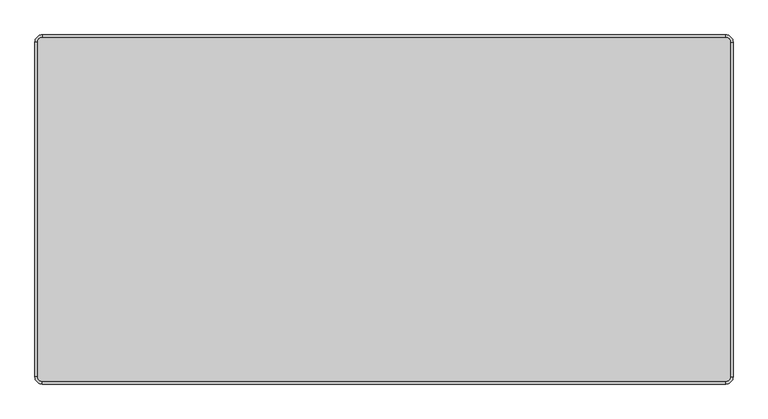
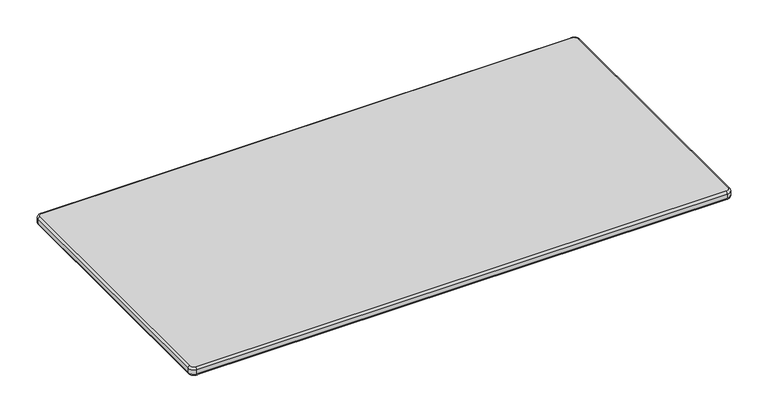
"""IFC4 building model written with IfcOpenShell, lengths in millimetres: furniture geometry, SSL-Childcraft_Outdoor-Table-Rectangle : 2161350."""

from ifc_helpers import new_model, si_unit, point, frame, origin, place, context, project, spatial, circle_curve, ellipse_curve, trimmed, source, transform, mapped, element, save
from ifc_brep_helpers import plane_surface, cylinder_surface, revolved_surface, advanced_brep


def furniture_84a5843a(model_context):
    return source(origin(), model_context, "Body", "AdvancedBrep", [
        advanced_brep(
        [(604.8375, 292.1, 508.0), (596.9, 300.0375, 508.0), (-596.9, 300.0375, 508.0), (-604.8375, 292.1, 508.0), (-604.8375, -292.1, 508.0), (-596.9, -300.0375, 508.0), (596.9, -300.0375, 508.0), (604.8375, -292.1, 508.0), (596.9, 300.0375, 488.95), (604.8375, 292.1, 488.95), (604.8375, -292.1, 488.95), (596.9, -300.0375, 488.95), (-596.9, -300.0375, 488.95), (-604.8375, -292.1, 488.95), (-604.8375, 292.1, 488.95), (-596.9, 300.0375, 488.95), (609.6, 292.1, 493.7125), (609.6, 292.1, 503.2375), (609.6, -292.1, 503.2375), (609.6, -292.1, 493.7125), (596.9, -304.8, 493.7125), (596.9, -304.8, 503.2375), (-596.9, -304.8, 503.2375), (-596.9, -304.8, 493.7125), (-609.6, -292.1, 503.2375), (-609.6, -292.1, 493.7125), (-609.6, 292.1, 503.2375), (-609.6, 292.1, 493.7125), (-596.9, 304.8, 493.7125), (-596.9, 304.8, 503.2375), (596.9, 304.8, 503.2375), (596.9, 304.8, 493.7125)],
        [
            (0, 1, circle_curve(frame((596.9, 292.1, 508.0), z_axis=(0.0, 0.0, 1.0), x_axis=(0.0, 1.0, 0.0)), 7.9375)),
            (1, 2),
            (2, 3, circle_curve(frame((-596.9, 292.1, 508.0), z_axis=(0.0, 0.0, 1.0), x_axis=(-1.0, 0.0, 0.0)), 7.9375)),
            (3, 4),
            (4, 5, circle_curve(frame((-596.9, -292.1, 508.0), z_axis=(0.0, 0.0, 1.0), x_axis=(0.0, -1.0, 0.0)), 7.9375)),
            (5, 6),
            (6, 7, circle_curve(frame((596.9, -292.1, 508.0), z_axis=(0.0, 0.0, 1.0), x_axis=(1.0, 0.0, 0.0)), 7.9375)),
            (7, 0),
            (8, 9, circle_curve(frame((596.9, 292.1, 488.95), z_axis=(0.0, 0.0, -1.0), x_axis=(0.0, 1.0, 0.0)), 7.9375)),
            (9, 10),
            (10, 11, circle_curve(frame((596.9, -292.1, 488.95), z_axis=(0.0, 0.0, -1.0), x_axis=(1.0, 0.0, 0.0)), 7.9375)),
            (11, 12),
            (12, 13, circle_curve(frame((-596.9, -292.1, 488.95), z_axis=(0.0, 0.0, -1.0), x_axis=(0.0, -1.0, 0.0)), 7.9375)),
            (13, 14),
            (14, 15, circle_curve(frame((-596.9, 292.1, 488.95), z_axis=(0.0, 0.0, -1.0), x_axis=(-1.0, 0.0, 0.0)), 7.9375)),
            (15, 8),
            (16, 17),
            (17, 18),
            (18, 19),
            (19, 16),
            (20, 21),
            (21, 22),
            (22, 23),
            (23, 20),
            (22, 24, circle_curve(frame((-596.9, -292.1, 503.2375), z_axis=(0.0, 0.0, -1.0), x_axis=(0.0, -1.0, 0.0)), 12.7)),
            (24, 25),
            (25, 23, circle_curve(frame((-596.9, -292.1, 493.7125), z_axis=(0.0, 0.0, 1.0), x_axis=(0.0, -1.0, 0.0)), 12.7)),
            (24, 26),
            (26, 27),
            (27, 25),
            (28, 29),
            (29, 30),
            (30, 31),
            (31, 28),
            (17, 30, circle_curve(frame((596.9, 292.1, 503.2375), z_axis=(0.0, 0.0, 1.0), x_axis=(0.0, 1.0, 0.0)), 12.7)),
            (30, 1, circle_curve(frame((596.9, 300.0375, 503.2375), z_axis=(1.0, 0.0, 0.0), x_axis=(0.0, 1.0, 0.0)), 4.7625)),
            (0, 17, circle_curve(frame((604.8375, 292.1, 503.2375), z_axis=(0.0, 1.0, 0.0), x_axis=(1.0, 0.0, 0.0)), 4.7625)),
            (16, 31, circle_curve(frame((596.9, 292.1, 493.7125), z_axis=(0.0, 0.0, 1.0), x_axis=(0.0, 1.0, 0.0)), 12.7)),
            (16, 9, circle_curve(frame((604.8375, 292.1, 493.7125), z_axis=(0.0, 1.0, 0.0), x_axis=(1.0, 0.0, 0.0)), 4.7625)),
            (8, 31, circle_curve(frame((596.9, 300.0375, 493.7125), z_axis=(1.0, 0.0, 0.0), x_axis=(0.0, 1.0, 0.0)), 4.7625)),
            (7, 18, circle_curve(frame((604.8375, -292.1, 503.2375), z_axis=(0.0, 1.0, 0.0), x_axis=(1.0, 0.0, 0.0)), 4.7625)),
            (19, 10, circle_curve(frame((604.8375, -292.1, 493.7125), z_axis=(0.0, 1.0, 0.0), x_axis=(1.0, 0.0, 0.0)), 4.7625)),
            (6, 21, circle_curve(frame((596.9, -300.0375, 503.2375), z_axis=(1.0, 0.0, 0.0), x_axis=(0.0, -1.0, 0.0)), 4.7625)),
            (21, 18, circle_curve(frame((596.9, -292.1, 503.2375), z_axis=(0.0, 0.0, 1.0), x_axis=(1.0, 0.0, 0.0)), 12.7)),
            (20, 19, circle_curve(frame((596.9, -292.1, 493.7125), z_axis=(0.0, 0.0, 1.0), x_axis=(1.0, 0.0, 0.0)), 12.7)),
            (20, 11, circle_curve(frame((596.9, -300.0375, 493.7125), z_axis=(1.0, 0.0, 0.0), x_axis=(0.0, -1.0, 0.0)), 4.7625)),
            (5, 22, circle_curve(frame((-596.9, -300.0375, 503.2375), z_axis=(1.0, 0.0, 0.0), x_axis=(0.0, -1.0, 0.0)), 4.7625)),
            (23, 12, circle_curve(frame((-596.9, -300.0375, 493.7125), z_axis=(1.0, 0.0, 0.0), x_axis=(0.0, -1.0, 0.0)), 4.7625)),
            (4, 24, circle_curve(frame((-604.8375, -292.1, 503.2375), z_axis=(0.0, -1.0, 0.0), x_axis=(-1.0, 0.0, 0.0)), 4.7625)),
            (25, 13, circle_curve(frame((-604.8375, -292.1, 493.7125), z_axis=(0.0, -1.0, 0.0), x_axis=(-1.0, 0.0, 0.0)), 4.7625)),
            (3, 26, circle_curve(frame((-604.8375, 292.1, 503.2375), z_axis=(0.0, -1.0, 0.0), x_axis=(-1.0, 0.0, 0.0)), 4.7625)),
            (27, 14, circle_curve(frame((-604.8375, 292.1, 493.7125), z_axis=(0.0, -1.0, 0.0), x_axis=(-1.0, 0.0, 0.0)), 4.7625)),
            (2, 29, circle_curve(frame((-596.9, 300.0375, 503.2375), z_axis=(-1.0, 0.0, 0.0), x_axis=(0.0, 1.0, 0.0)), 4.7625)),
            (29, 26, circle_curve(frame((-596.9, 292.1, 503.2375), z_axis=(0.0, 0.0, 1.0), x_axis=(-1.0, 0.0, 0.0)), 12.7)),
            (28, 27, circle_curve(frame((-596.9, 292.1, 493.7125), z_axis=(0.0, 0.0, 1.0), x_axis=(-1.0, 0.0, 0.0)), 12.7)),
            (28, 15, circle_curve(frame((-596.9, 300.0375, 493.7125), z_axis=(-1.0, 0.0, 0.0), x_axis=(0.0, 1.0, 0.0)), 4.7625)),
        ],
        [
            plane_surface(frame((-596.9, 295.275, 508.0), z_axis=(0.0, 0.0, 1.0), x_axis=(-1.0, 0.0, 0.0))),
            plane_surface(frame((-596.9, 295.275, 488.95), z_axis=(0.0, 0.0, -1.0), x_axis=(1.0, 0.0, 0.0))),
            plane_surface(frame((609.6, 292.1, 503.2375), z_axis=(1.0, 0.0, 0.0), x_axis=(0.0, -1.0, 0.0))),
            plane_surface(frame((596.9, -304.8, 503.2375), z_axis=(0.0, -1.0, 0.0), x_axis=(-1.0, 0.0, 0.0))),
            cylinder_surface(frame((-596.9, -292.1, 0.0), z_axis=(0.0, 0.0, -1.0), x_axis=(0.0, -1.0, 0.0)), 12.7),
            plane_surface(frame((-609.6, -292.1, 503.2375), z_axis=(-1.0, 0.0, 0.0), x_axis=(0.0, 1.0, 0.0))),
            plane_surface(frame((-596.9, 304.8, 503.2375), z_axis=(0.0, 1.0, 0.0), x_axis=(1.0, 0.0, 0.0))),
            revolved_surface(trimmed(ellipse_curve(frame((596.9, 300.0375, 503.2375), z_axis=(-1.0, 0.0, 0.0), x_axis=(0.0, 1.0, 0.0)), 4.7625, 4.7625), [point((596.9, 300.0375, 508.0))], [point((596.9, 304.8, 503.2375))], True, "CARTESIAN"), (596.9, 292.1, 0.0), (0.0, 0.0, -1.0)),
            cylinder_surface(frame((596.9, 292.1, 0.0), z_axis=(0.0, 0.0, -1.0), x_axis=(0.0, 1.0, 0.0)), 12.7),
            revolved_surface(trimmed(ellipse_curve(frame((596.9, 300.0375, 493.7125), z_axis=(-1.0, 0.0, 0.0), x_axis=(0.0, 1.0, 0.0)), 4.7625, 4.7625), [point((596.9, 304.8, 493.7125))], [point((596.9, 300.0375, 488.95))], True, "CARTESIAN"), (596.9, 292.1, 0.0), (0.0, 0.0, -1.0)),
            cylinder_surface(frame((604.8375, 292.1, 503.2375), z_axis=(0.0, 1.0, 0.0), x_axis=(1.0, 0.0, 0.0)), 4.7625),
            cylinder_surface(frame((604.8375, 292.1, 493.7125), z_axis=(0.0, 1.0, 0.0), x_axis=(1.0, 0.0, 0.0)), 4.7625),
            revolved_surface(trimmed(ellipse_curve(frame((604.8375, -292.1, 503.2375), z_axis=(0.0, 1.0, 0.0), x_axis=(1.0, 0.0, 0.0)), 4.7625, 4.7625), [point((604.8375, -292.1, 508.0))], [point((609.6, -292.1, 503.2375))], True, "CARTESIAN"), (596.9, -292.1, 0.0), (0.0, 0.0, -1.0)),
            cylinder_surface(frame((596.9, -292.1, 0.0), z_axis=(0.0, 0.0, -1.0), x_axis=(1.0, 0.0, 0.0)), 12.7),
            revolved_surface(trimmed(ellipse_curve(frame((604.8375, -292.1, 493.7125), z_axis=(0.0, 1.0, 0.0), x_axis=(1.0, 0.0, 0.0)), 4.7625, 4.7625), [point((609.6, -292.1, 493.7125))], [point((604.8375, -292.1, 488.95))], True, "CARTESIAN"), (596.9, -292.1, 0.0), (0.0, 0.0, -1.0)),
            cylinder_surface(frame((596.9, -300.0375, 503.2375), z_axis=(1.0, 0.0, 0.0), x_axis=(0.0, -1.0, 0.0)), 4.7625),
            cylinder_surface(frame((596.9, -300.0375, 493.7125), z_axis=(1.0, 0.0, 0.0), x_axis=(0.0, -1.0, 0.0)), 4.7625),
            revolved_surface(trimmed(ellipse_curve(frame((-596.9, -300.0375, 503.2375), z_axis=(1.0, 0.0, 0.0), x_axis=(0.0, -1.0, 0.0)), 4.7625, 4.7625), [point((-596.9, -300.0375, 508.0))], [point((-596.9, -304.8, 503.2375))], True, "CARTESIAN"), (-596.9, -292.1, 0.0), (0.0, 0.0, -1.0)),
            revolved_surface(trimmed(ellipse_curve(frame((-596.9, -300.0375, 493.7125), z_axis=(1.0, 0.0, 0.0), x_axis=(0.0, -1.0, 0.0)), 4.7625, 4.7625), [point((-596.9, -304.8, 493.7125))], [point((-596.9, -300.0375, 488.95))], True, "CARTESIAN"), (-596.9, -292.1, 0.0), (0.0, 0.0, -1.0)),
            cylinder_surface(frame((-604.8375, -292.1, 503.2375), z_axis=(0.0, -1.0, 0.0), x_axis=(-1.0, 0.0, 0.0)), 4.7625),
            cylinder_surface(frame((-604.8375, -292.1, 493.7125), z_axis=(0.0, -1.0, 0.0), x_axis=(-1.0, 0.0, 0.0)), 4.7625),
            revolved_surface(trimmed(ellipse_curve(frame((-604.8375, 292.1, 503.2375), z_axis=(0.0, -1.0, 0.0), x_axis=(-1.0, 0.0, 0.0)), 4.7625, 4.7625), [point((-604.8375, 292.1, 508.0))], [point((-609.6, 292.1, 503.2375))], True, "CARTESIAN"), (-596.9, 292.1, 0.0), (0.0, 0.0, -1.0)),
            cylinder_surface(frame((-596.9, 292.1, 0.0), z_axis=(0.0, 0.0, -1.0), x_axis=(-1.0, 0.0, 0.0)), 12.7),
            revolved_surface(trimmed(ellipse_curve(frame((-604.8375, 292.1, 493.7125), z_axis=(0.0, -1.0, 0.0), x_axis=(-1.0, 0.0, 0.0)), 4.7625, 4.7625), [point((-609.6, 292.1, 493.7125))], [point((-604.8375, 292.1, 488.95))], True, "CARTESIAN"), (-596.9, 292.1, 0.0), (0.0, 0.0, -1.0)),
            cylinder_surface(frame((-596.9, 300.0375, 503.2375), z_axis=(-1.0, 0.0, 0.0), x_axis=(0.0, 1.0, 0.0)), 4.7625),
            cylinder_surface(frame((-596.9, 300.0375, 493.7125), z_axis=(-1.0, 0.0, 0.0), x_axis=(0.0, 1.0, 0.0)), 4.7625),
        ],
        [
            (0, [[1, 2, 3, 4, 5, 6, 7, 8]]),
            (1, [[9, 10, 11, 12, 13, 14, 15, 16]]),
            (2, [[17, 18, 19, 20]]),
            (3, [[21, 22, 23, 24]]),
            (4, [[-23, 25, 26, 27]]),
            (5, [[-26, 28, 29, 30]]),
            (6, [[31, 32, 33, 34]]),
            (7, [[35, 36, -1, 37]]),
            (8, [[-17, 38, -33, -35]]),
            (9, [[-38, 39, -9, 40]]),
            (10, [[-18, -37, -8, 41]]),
            (11, [[-20, 42, -10, -39]]),
            (12, [[-41, -7, 43, 44]]),
            (13, [[-19, -44, -21, 45]]),
            (14, [[-42, -45, 46, -11]]),
            (15, [[-22, -43, -6, 47]]),
            (16, [[-24, 48, -12, -46]]),
            (17, [[-25, -47, -5, 49]]),
            (18, [[-27, 50, -13, -48]]),
            (19, [[-28, -49, -4, 51]]),
            (20, [[-30, 52, -14, -50]]),
            (21, [[-51, -3, 53, 54]]),
            (22, [[-29, -54, -31, 55]]),
            (23, [[-52, -55, 56, -15]]),
            (24, [[-32, -53, -2, -36]]),
            (25, [[-34, -40, -16, -56]]),
        ],
    ),
    ])


if __name__ == "__main__":
    model = new_model("IFC4")
    model_context = context("Model", 3, world=origin())
    ifc_project = project(units=[si_unit("LENGTHUNIT", "METRE", prefix="MILLI")], contexts=[model_context])
    site = spatial("IfcSite", under=ifc_project)
    building = spatial("IfcBuilding", under=site)
    placement = place(None, origin())
    furniture_shape = furniture_84a5843a(model_context)
    element("IfcFurniture", 1, ObjectType="SSL-Childcraft_Outdoor-Table-Rectangle : 2161350", at=placement, inside=building, context=model_context, shape_type="MappedRepresentation", body=[
        mapped(furniture_shape, transform((0.0, 0.0, 0.0), x_axis=(1.0, 0.0, 0.0), y_axis=(0.0, 1.0, 0.0), z_axis=(0.0, 0.0, 1.0))),
    ])
    save(model, "model.ifc")
